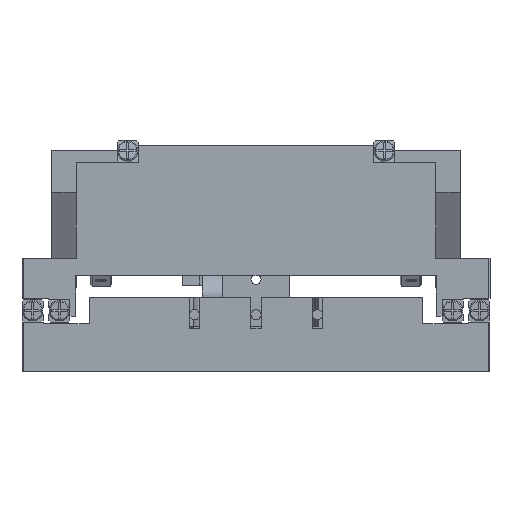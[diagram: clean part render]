
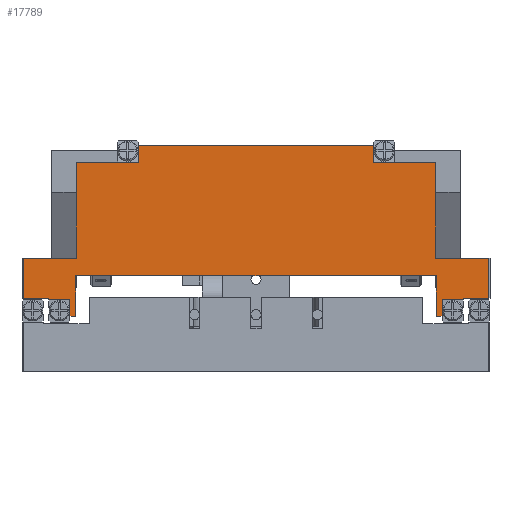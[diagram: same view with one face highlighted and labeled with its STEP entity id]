
A CAD part, front view. The second image highlights one B-rep face of the part: STEP entity #17789.
In plain terms, the highlighted planar face has unit normal (0, -1, 0) as drawn and (0, 1, 0) by its records, which use the part's own axes.
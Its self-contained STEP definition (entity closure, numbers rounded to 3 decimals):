
#1170=LINE('',#26065,#1729);
#1199=LINE('',#26123,#1758);
#1206=LINE('',#26194,#1765);
#1210=LINE('',#26234,#1769);
#1218=LINE('',#26266,#1777);
#1220=LINE('',#26270,#1779);
#1222=LINE('',#26290,#1781);
#1224=LINE('',#26294,#1783);
#1226=LINE('',#26298,#1785);
#1228=LINE('',#26302,#1787);
#1229=LINE('',#26304,#1788);
#1231=LINE('',#26308,#1790);
#1233=LINE('',#26312,#1792);
#1235=LINE('',#26332,#1794);
#1237=LINE('',#26336,#1796);
#1241=LINE('',#26360,#1800);
#1247=LINE('',#26402,#1806);
#1249=LINE('',#26406,#1808);
#1250=LINE('',#26407,#1809);
#1251=LINE('',#26408,#1810);
#1252=LINE('',#26410,#1811);
#1253=LINE('',#26412,#1812);
#1254=LINE('',#26413,#1813);
#1255=LINE('',#26414,#1814);
#1729=VECTOR('',#22470,1000.);
#1758=VECTOR('',#22505,1000.);
#1765=VECTOR('',#22580,1000.);
#1769=VECTOR('',#22618,1000.);
#1777=VECTOR('',#22646,1000.);
#1779=VECTOR('',#22650,1000.);
#1781=VECTOR('',#22670,1000.);
#1783=VECTOR('',#22674,1000.);
#1785=VECTOR('',#22678,1000.);
#1787=VECTOR('',#22682,1000.);
#1788=VECTOR('',#22685,1000.);
#1790=VECTOR('',#22689,1000.);
#1792=VECTOR('',#22693,1000.);
#1794=VECTOR('',#22713,1000.);
#1796=VECTOR('',#22717,1000.);
#1800=VECTOR('',#22739,1000.);
#1806=VECTOR('',#22781,1000.);
#1808=VECTOR('',#22785,1000.);
#1809=VECTOR('',#22786,1000.);
#1810=VECTOR('',#22787,1000.);
#1811=VECTOR('',#22788,1000.);
#1812=VECTOR('',#22789,1000.);
#1813=VECTOR('',#22790,1000.);
#1814=VECTOR('',#22791,1000.);
#4045=ORIENTED_EDGE('',*,*,#5699,.F.);
#4046=ORIENTED_EDGE('',*,*,#5786,.T.);
#4047=ORIENTED_EDGE('',*,*,#5762,.F.);
#4048=ORIENTED_EDGE('',*,*,#5750,.F.);
#4049=ORIENTED_EDGE('',*,*,#5748,.F.);
#4050=ORIENTED_EDGE('',*,*,#5738,.F.);
#4051=ORIENTED_EDGE('',*,*,#5736,.F.);
#4052=ORIENTED_EDGE('',*,*,#5734,.F.);
#4053=ORIENTED_EDGE('',*,*,#5618,.F.);
#4054=ORIENTED_EDGE('',*,*,#5733,.F.);
#4055=ORIENTED_EDGE('',*,*,#5731,.F.);
#4056=ORIENTED_EDGE('',*,*,#5729,.F.);
#4057=ORIENTED_EDGE('',*,*,#5727,.F.);
#4058=ORIENTED_EDGE('',*,*,#5717,.F.);
#4059=ORIENTED_EDGE('',*,*,#5715,.F.);
#4060=ORIENTED_EDGE('',*,*,#5787,.T.);
#4061=ORIENTED_EDGE('',*,*,#5784,.F.);
#4062=ORIENTED_EDGE('',*,*,#5788,.F.);
#4063=ORIENTED_EDGE('',*,*,#5789,.T.);
#4064=ORIENTED_EDGE('',*,*,#5790,.T.);
#4065=ORIENTED_EDGE('',*,*,#5647,.F.);
#4066=ORIENTED_EDGE('',*,*,#5791,.F.);
#4067=ORIENTED_EDGE('',*,*,#5679,.T.);
#4068=ORIENTED_EDGE('',*,*,#5792,.T.);
#5618=EDGE_CURVE('',#6788,#6789,#1170,.T.);
#5647=EDGE_CURVE('',#6814,#6815,#1199,.T.);
#5679=EDGE_CURVE('',#6843,#6844,#1206,.T.);
#5699=EDGE_CURVE('',#6863,#6864,#1210,.T.);
#5715=EDGE_CURVE('',#6877,#6878,#1218,.T.);
#5717=EDGE_CURVE('',#6878,#6879,#1220,.T.);
#5727=EDGE_CURVE('',#6879,#6888,#1222,.T.);
#5729=EDGE_CURVE('',#6888,#6889,#1224,.T.);
#5731=EDGE_CURVE('',#6889,#6890,#1226,.T.);
#5733=EDGE_CURVE('',#6890,#6788,#1228,.T.);
#5734=EDGE_CURVE('',#6789,#6891,#1229,.T.);
#5736=EDGE_CURVE('',#6891,#6892,#1231,.T.);
#5738=EDGE_CURVE('',#6892,#6893,#1233,.T.);
#5748=EDGE_CURVE('',#6893,#6902,#1235,.T.);
#5750=EDGE_CURVE('',#6902,#6903,#1237,.T.);
#5762=EDGE_CURVE('',#6903,#6914,#1241,.T.);
#5784=EDGE_CURVE('',#6931,#6932,#1247,.T.);
#5786=EDGE_CURVE('',#6863,#6914,#1249,.T.);
#5787=EDGE_CURVE('',#6877,#6932,#1250,.T.);
#5788=EDGE_CURVE('',#6933,#6931,#1251,.T.);
#5789=EDGE_CURVE('',#6933,#6934,#1252,.T.);
#5790=EDGE_CURVE('',#6934,#6815,#1253,.T.);
#5791=EDGE_CURVE('',#6843,#6814,#1254,.T.);
#5792=EDGE_CURVE('',#6844,#6864,#1255,.T.);
#6788=VERTEX_POINT('',#26064);
#6789=VERTEX_POINT('',#26066);
#6814=VERTEX_POINT('',#26122);
#6815=VERTEX_POINT('',#26124);
#6843=VERTEX_POINT('',#26191);
#6844=VERTEX_POINT('',#26193);
#6863=VERTEX_POINT('',#26233);
#6864=VERTEX_POINT('',#26235);
#6877=VERTEX_POINT('',#26265);
#6878=VERTEX_POINT('',#26267);
#6879=VERTEX_POINT('',#26271);
#6888=VERTEX_POINT('',#26291);
#6889=VERTEX_POINT('',#26295);
#6890=VERTEX_POINT('',#26299);
#6891=VERTEX_POINT('',#26305);
#6892=VERTEX_POINT('',#26309);
#6893=VERTEX_POINT('',#26313);
#6902=VERTEX_POINT('',#26333);
#6903=VERTEX_POINT('',#26337);
#6914=VERTEX_POINT('',#26361);
#6931=VERTEX_POINT('',#26401);
#6932=VERTEX_POINT('',#26403);
#6933=VERTEX_POINT('',#26409);
#6934=VERTEX_POINT('',#26411);
#8979=EDGE_LOOP('',(#4045,#4046,#4047,#4048,#4049,#4050,#4051,#4052,#4053,
#4054,#4055,#4056,#4057,#4058,#4059,#4060,#4061,#4062,#4063,#4064,#4065,
#4066,#4067,#4068));
#10608=FACE_BOUND('',#8979,.T.);
#11317=PLANE('',#19320);
#17789=ADVANCED_FACE('',(#10608),#11317,.F.);
#19320=AXIS2_PLACEMENT_3D('',#26405,#22783,#22784);
#22470=DIRECTION('',(1.,0.,0.));
#22505=DIRECTION('',(-1.,0.,0.));
#22580=DIRECTION('',(1.,0.,0.));
#22618=DIRECTION('',(-1.,0.,0.));
#22646=DIRECTION('',(1.,0.,0.));
#22650=DIRECTION('',(0.,0.,-1.));
#22670=DIRECTION('',(1.,0.,0.));
#22674=DIRECTION('',(0.,0.,-1.));
#22678=DIRECTION('',(1.,0.,0.));
#22682=DIRECTION('',(0.,0.,1.));
#22685=DIRECTION('',(0.,0.,-1.));
#22689=DIRECTION('',(1.,0.,0.));
#22693=DIRECTION('',(0.,0.,1.));
#22713=DIRECTION('',(1.,0.,0.));
#22717=DIRECTION('',(0.,0.,1.));
#22739=DIRECTION('',(1.,0.,0.));
#22781=DIRECTION('',(-1.,0.,0.));
#22783=DIRECTION('',(0.,-1.,0.));
#22784=DIRECTION('',(0.,0.,-1.));
#22785=DIRECTION('',(0.,0.,-1.));
#22786=DIRECTION('',(0.,0.,1.));
#22787=DIRECTION('',(0.,0.,-1.));
#22788=DIRECTION('',(1.,0.,0.));
#22789=DIRECTION('',(0.,0.,1.));
#22790=DIRECTION('',(0.,0.,1.));
#22791=DIRECTION('',(0.,0.,-1.));
#26064=CARTESIAN_POINT('',(-32.,80.,4.));
#26065=CARTESIAN_POINT('',(-32.,80.,4.));
#26066=CARTESIAN_POINT('',(32.,80.,4.));
#26122=CARTESIAN_POINT('',(20.85,80.,27.172));
#26123=CARTESIAN_POINT('',(20.85,80.,27.172));
#26124=CARTESIAN_POINT('',(-20.85,80.,27.172));
#26191=CARTESIAN_POINT('',(20.85,80.,24.105));
#26193=CARTESIAN_POINT('',(31.85,80.,24.105));
#26194=CARTESIAN_POINT('',(-31.85,80.,24.105));
#26233=CARTESIAN_POINT('',(41.3,80.,7.1));
#26234=CARTESIAN_POINT('',(41.5,80.,7.1));
#26235=CARTESIAN_POINT('',(31.85,80.,7.1));
#26265=CARTESIAN_POINT('',(-41.3,80.,0.));
#26266=CARTESIAN_POINT('',(-41.5,80.,0.));
#26267=CARTESIAN_POINT('',(-36.8,80.,0.));
#26270=CARTESIAN_POINT('',(-36.8,80.,0.));
#26271=CARTESIAN_POINT('',(-36.8,80.,-0.2));
#26290=CARTESIAN_POINT('',(-36.8,80.,-0.2));
#26291=CARTESIAN_POINT('',(-33.,80.,-0.2));
#26294=CARTESIAN_POINT('',(-33.,80.,-0.2));
#26295=CARTESIAN_POINT('',(-33.,80.,-3.2));
#26298=CARTESIAN_POINT('',(-33.,80.,-3.2));
#26299=CARTESIAN_POINT('',(-32.,80.,-3.2));
#26302=CARTESIAN_POINT('',(-32.,80.,-3.2));
#26304=CARTESIAN_POINT('',(32.,80.,-3.2));
#26305=CARTESIAN_POINT('',(32.,80.,-3.2));
#26308=CARTESIAN_POINT('',(33.,80.,-3.2));
#26309=CARTESIAN_POINT('',(33.,80.,-3.2));
#26312=CARTESIAN_POINT('',(33.,80.,-0.2));
#26313=CARTESIAN_POINT('',(33.,80.,-0.2));
#26332=CARTESIAN_POINT('',(36.8,80.,-0.2));
#26333=CARTESIAN_POINT('',(36.8,80.,-0.2));
#26336=CARTESIAN_POINT('',(36.8,80.,0.));
#26337=CARTESIAN_POINT('',(36.8,80.,0.));
#26360=CARTESIAN_POINT('',(41.5,80.,0.));
#26361=CARTESIAN_POINT('',(41.3,80.,0.));
#26401=CARTESIAN_POINT('',(-31.85,80.,7.1));
#26402=CARTESIAN_POINT('',(41.5,80.,7.1));
#26403=CARTESIAN_POINT('',(-41.3,80.,7.1));
#26405=CARTESIAN_POINT('',(0.,80.,0.));
#26406=CARTESIAN_POINT('',(41.3,80.,0.));
#26407=CARTESIAN_POINT('',(-41.3,80.,7.1));
#26408=CARTESIAN_POINT('',(-31.85,80.,24.105));
#26409=CARTESIAN_POINT('',(-31.85,80.,24.105));
#26410=CARTESIAN_POINT('',(-31.85,80.,24.105));
#26411=CARTESIAN_POINT('',(-20.85,80.,24.105));
#26412=CARTESIAN_POINT('',(-20.85,80.,24.105));
#26413=CARTESIAN_POINT('',(20.85,80.,24.105));
#26414=CARTESIAN_POINT('',(31.85,80.,24.105));
